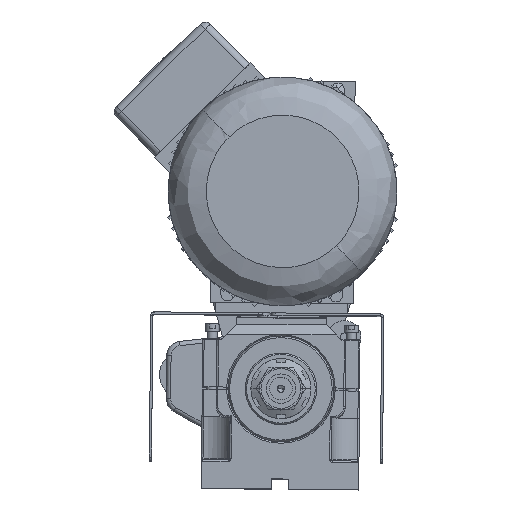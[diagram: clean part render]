
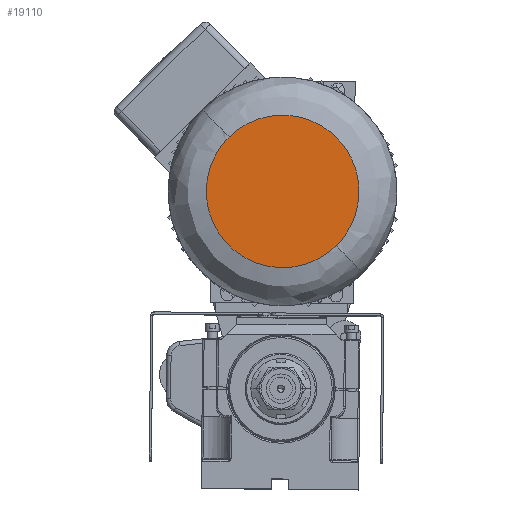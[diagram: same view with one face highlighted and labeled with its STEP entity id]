
A CAD part, top view. The second image highlights one B-rep face of the part: STEP entity #19110.
In plain terms, the highlighted planar face has unit normal (0, 0, 1) as drawn and (0, 1, 0) by its records, which use the part's own axes.
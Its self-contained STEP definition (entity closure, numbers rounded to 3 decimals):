
#961 = AXIS2_PLACEMENT_3D ( 'NONE', #17908, #47868, #48059 ) ;
#8793 = CARTESIAN_POINT ( 'NONE',  ( 0., 201., -53.333 ) ) ;
#9065 = CARTESIAN_POINT ( 'NONE',  ( 0., 201., -53.333 ) ) ;
#12698 = CARTESIAN_POINT ( 'NONE',  ( 0., 201., 53.333 ) ) ;
#17908 = CARTESIAN_POINT ( 'NONE',  ( 0., 201., 0. ) ) ;
#19110 = ADVANCED_FACE ( 'NONE', ( #31664 ), #34244, .T. ) ;
#22003 =( BOUNDED_CURVE ( )  B_SPLINE_CURVE ( 3, ( #8793, #43158, #34206, #12698 ),
 .UNSPECIFIED., .F., .F. ) 
 B_SPLINE_CURVE_WITH_KNOTS ( ( 4, 4 ),
 ( 0.5, 1. ),
 .UNSPECIFIED. ) 
 CURVE ( )  GEOMETRIC_REPRESENTATION_ITEM ( )  RATIONAL_B_SPLINE_CURVE ( ( 1., 0.333, 0.333, 1. ) ) 
 REPRESENTATION_ITEM ( '' )  );
#22127 = ORIENTED_EDGE ( 'NONE', *, *, #45363, .F. ) ;
#29117 = CARTESIAN_POINT ( 'NONE',  ( -106.667, 201., -53.333 ) ) ;
#31664 = FACE_OUTER_BOUND ( 'NONE', #35371, .T. ) ;
#34206 = CARTESIAN_POINT ( 'NONE',  ( 106.667, 201., 53.333 ) ) ;
#34244 = PLANE ( 'NONE',  #961 ) ;
#35371 = EDGE_LOOP ( 'NONE', ( #22127, #40889 ) ) ;
#40889 = ORIENTED_EDGE ( 'NONE', *, *, #52760, .F. ) ;
#41294 = VERTEX_POINT ( 'NONE', #9065 ) ;
#42414 = CARTESIAN_POINT ( 'NONE',  ( 0., 201., 53.333 ) ) ;
#42969 = CARTESIAN_POINT ( 'NONE',  ( -106.667, 201., 53.333 ) ) ;
#43158 = CARTESIAN_POINT ( 'NONE',  ( 106.667, 201., -53.333 ) ) ;
#45363 = EDGE_CURVE ( 'NONE', #55899, #41294, #48001, .T. ) ;
#46736 = CARTESIAN_POINT ( 'NONE',  ( 0., 201., -53.333 ) ) ;
#47868 = DIRECTION ( 'NONE',  ( 0., 1., 0. ) ) ;
#48001 =( BOUNDED_CURVE ( )  B_SPLINE_CURVE ( 3, ( #42414, #42969, #29117, #46736 ),
 .UNSPECIFIED., .F., .F. ) 
 B_SPLINE_CURVE_WITH_KNOTS ( ( 4, 4 ),
 ( 0., 0.5 ),
 .UNSPECIFIED. ) 
 CURVE ( )  GEOMETRIC_REPRESENTATION_ITEM ( )  RATIONAL_B_SPLINE_CURVE ( ( 1., 0.333, 0.333, 1. ) ) 
 REPRESENTATION_ITEM ( '' )  );
#48059 = DIRECTION ( 'NONE',  ( 0., 0., 1. ) ) ;
#52760 = EDGE_CURVE ( 'NONE', #41294, #55899, #22003, .T. ) ;
#53372 = CARTESIAN_POINT ( 'NONE',  ( 0., 201., 53.333 ) ) ;
#55899 = VERTEX_POINT ( 'NONE', #53372 ) ;
